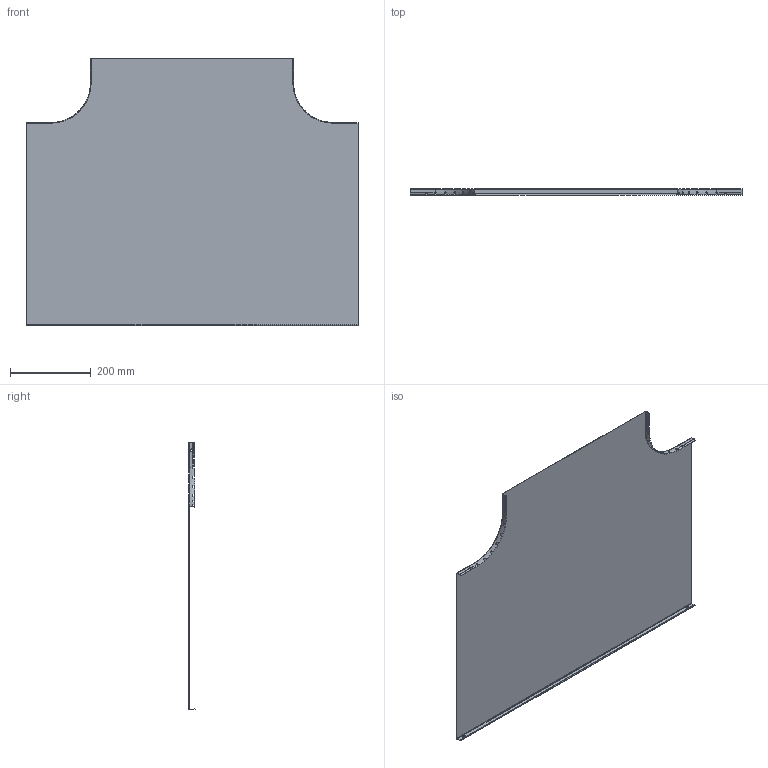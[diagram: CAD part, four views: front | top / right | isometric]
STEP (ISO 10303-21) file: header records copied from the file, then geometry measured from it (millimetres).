
FILE_DESCRIPTION (( 'STEP AP203' ), '1' );
FILE_NAME ('ERE_TAPA TE 500.step', '2023-07-28T14:52:09', ( '' ), ( '' ), 'SwSTEP 2.0', 'SolidWorks 2022', '' );
FILE_SCHEMA (( 'CONFIG_CONTROL_DESIGN' ));
Length unit declared in the file: millimetre
Products named in the file (1): ERE_TAPA TE 500
Bounding box: 820 x 14.96 x 661.5 mm (x, y, z)
Volume: 359740 mm3; surface area: 1030063.2 mm2
Topology: 1 solids, 1 shells, 318 faces, 828 edges, 504 vertices
Faces by surface type: plane 154, bspline 88, cylinder 72, torus 4
Entity records: 17949 total; most frequent: CARTESIAN_POINT 10921, ORIENTED_EDGE 1656, DIRECTION 1135, EDGE_CURVE 828, VERTEX_POINT 504, AXIS2_PLACEMENT_3D 411, B_SPLINE_CURVE_WITH_KNOTS 335, FACE_OUTER_BOUND 318
